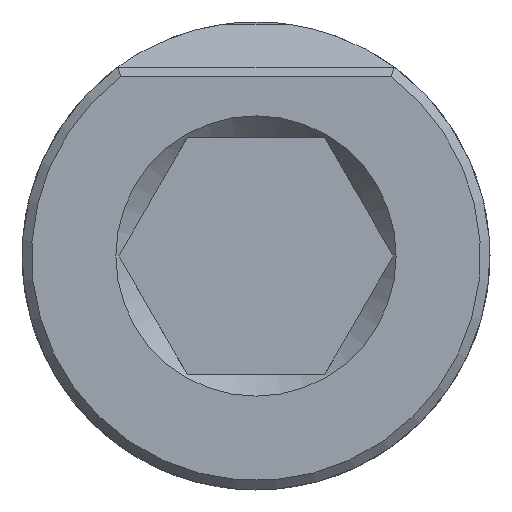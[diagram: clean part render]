
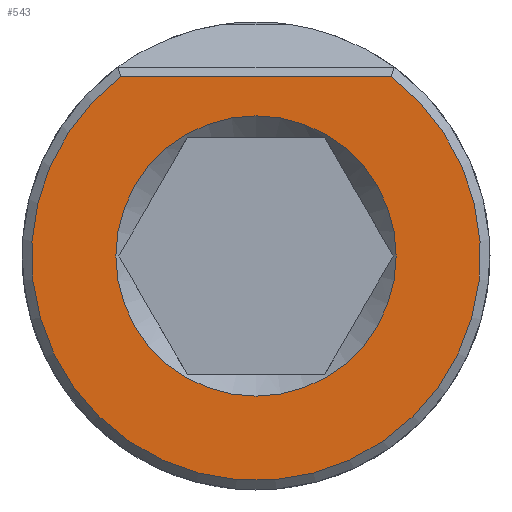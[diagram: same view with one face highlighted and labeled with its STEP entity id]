
A CAD part, front view. The second image highlights one B-rep face of the part: STEP entity #543.
In plain terms, the highlighted planar face has unit normal (0, -1, 0).
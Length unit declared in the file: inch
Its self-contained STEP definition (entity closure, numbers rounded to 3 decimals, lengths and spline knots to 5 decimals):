
#33=PLANE('',#609);
#49=FACE_BOUND('',#114,.T.);
#80=FACE_OUTER_BOUND('',#113,.T.);
#113=EDGE_LOOP('',(#451,#452));
#114=EDGE_LOOP('',(#453));
#157=LINE('',#1014,#192);
#192=VECTOR('',#724,0.3937);
#226=CIRCLE('',#607,0.4725);
#227=CIRCLE('',#610,0.295);
#260=VERTEX_POINT('',#1001);
#261=VERTEX_POINT('',#1002);
#262=VERTEX_POINT('',#1016);
#327=EDGE_CURVE('',#260,#261,#226,.T.);
#331=EDGE_CURVE('',#261,#260,#157,.T.);
#332=EDGE_CURVE('',#262,#262,#227,.T.);
#451=ORIENTED_EDGE('',*,*,#327,.F.);
#452=ORIENTED_EDGE('',*,*,#331,.F.);
#453=ORIENTED_EDGE('',*,*,#332,.F.);
#543=ADVANCED_FACE('',(#80,#49),#33,.T.);
#607=AXIS2_PLACEMENT_3D('',#1003,#719,#720);
#609=AXIS2_PLACEMENT_3D('',#1015,#725,#726);
#610=AXIS2_PLACEMENT_3D('',#1017,#727,#728);
#719=DIRECTION('center_axis',(0.,1.,0.));
#720=DIRECTION('ref_axis',(0.,0.,-1.));
#724=DIRECTION('',(1.,0.,0.));
#725=DIRECTION('center_axis',(0.,-1.,0.));
#726=DIRECTION('ref_axis',(0.,0.,-1.));
#727=DIRECTION('center_axis',(0.,-1.,0.));
#728=DIRECTION('ref_axis',(0.,0.,1.));
#1001=CARTESIAN_POINT('',(0.28417,0.,0.3775));
#1002=CARTESIAN_POINT('',(-0.28417,0.,0.3775));
#1003=CARTESIAN_POINT('Origin',(0.,0.,0.));
#1014=CARTESIAN_POINT('',(0.26848,0.,0.3775));
#1015=CARTESIAN_POINT('Origin',(0.,0.,-0.25));
#1016=CARTESIAN_POINT('',(0.,0.,-0.295));
#1017=CARTESIAN_POINT('Origin',(0.,0.,0.));
